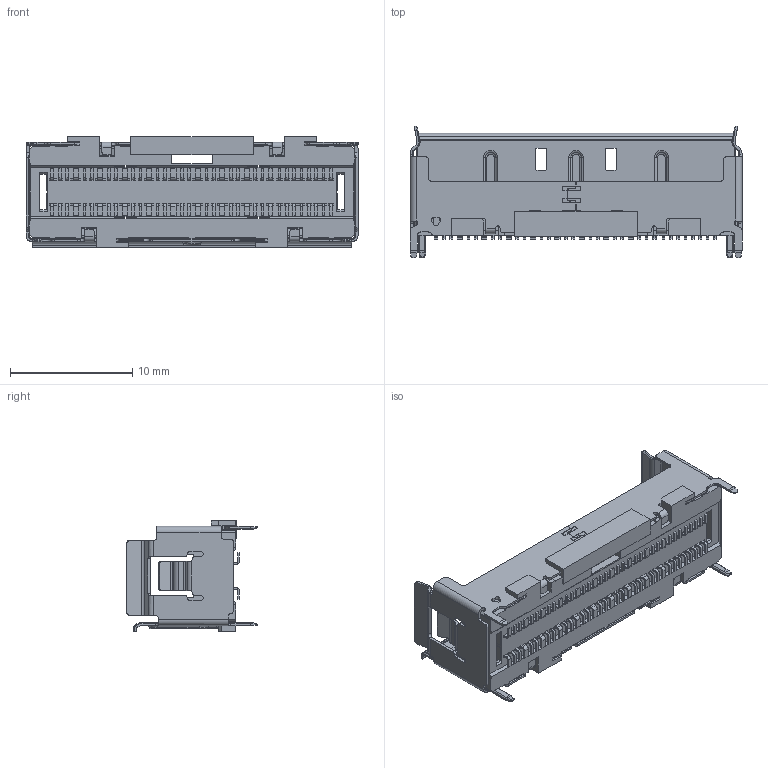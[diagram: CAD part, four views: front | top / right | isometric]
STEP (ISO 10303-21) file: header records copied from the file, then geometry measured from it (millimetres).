
FILE_DESCRIPTION((''),'2;1');
FILE_NAME('00-NEARSTACK_72PIN_AS_SW0001','2026-08-26T17:38:50',('12824382'),(''),'CREO PARAMETRIC BY PTC INC, 2019471','CREO PARAMETRIC BY PTC INC, 2019471','');
FILE_SCHEMA(('CONFIG_CONTROL_DESIGN'));
Products named in the file (1): 00-NEARSTACK_72PIN_AS_SW0001
Bounding box: 27.2 x 10.77 x 9.09 mm (x, y, z)
Volume: 538.9 mm3; surface area: 2094.1 mm2
Topology: 1 solids, 1 shells, 2883 faces, 8452 edges, 5543 vertices
Faces by surface type: plane 1926, cylinder 853, cone 54, bspline 26, torus 24
Entity records: 96621 total; most frequent: CARTESIAN_POINT 18546, ORIENTED_EDGE 16904, DIRECTION 15818, EDGE_CURVE 8452, VECTOR 6502, LINE 6502, VERTEX_POINT 5543, AXIS2_PLACEMENT_3D 4658
